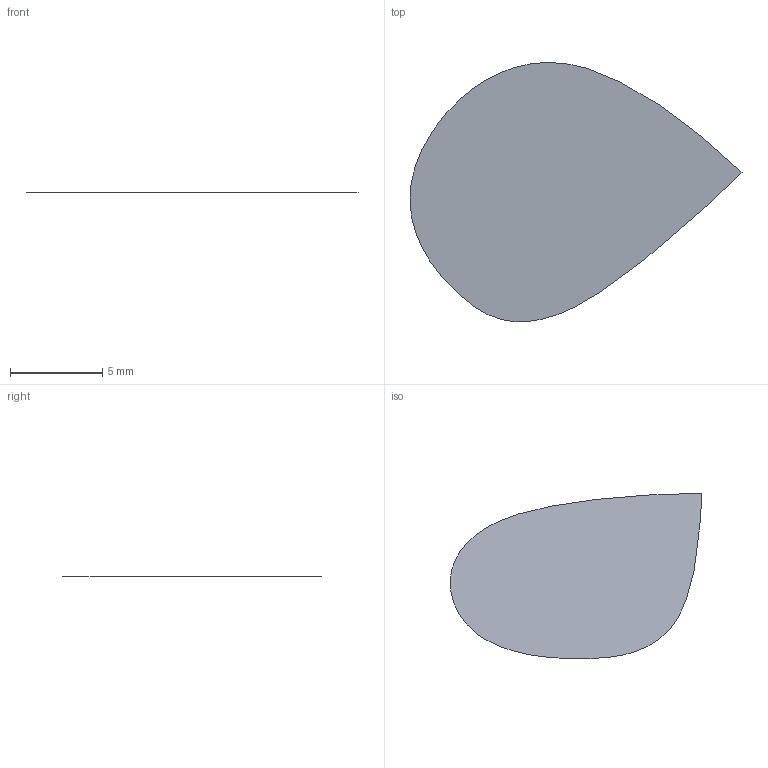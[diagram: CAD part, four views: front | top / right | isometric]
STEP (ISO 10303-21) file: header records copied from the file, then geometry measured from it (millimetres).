
FILE_DESCRIPTION(('BRL-CAD AP203 full unclamped closed-curve knot fixture'),'2;1');
FILE_NAME('ap203_unclamped_closed_curve_knots.stp','2026-07-23T00:00:00',('BRL-CAD'),('BRL-CAD'),'','','');
FILE_SCHEMA(('CONFIG_CONTROL_DESIGN'));
Length unit declared in the file: millimetre
Products named in the file (1): unclamped_closed_curve_knots
Bounding box: 18.01 x 14.06 x 0 mm (x, y, z)
Surface area: 168.9 mm2 (no closed solid volume)
Topology: 0 solids, 1 shells, 1 faces, 1 edges, 1 vertices
Faces by surface type: plane 1
Entity records: 36 total; most frequent: CARTESIAN_POINT 10, DIRECTION 2, VERTEX_POINT 1, B_SPLINE_CURVE_WITH_KNOTS 1, EDGE_CURVE 1, ORIENTED_EDGE 1, EDGE_LOOP 1, FACE_OUTER_BOUND 1
